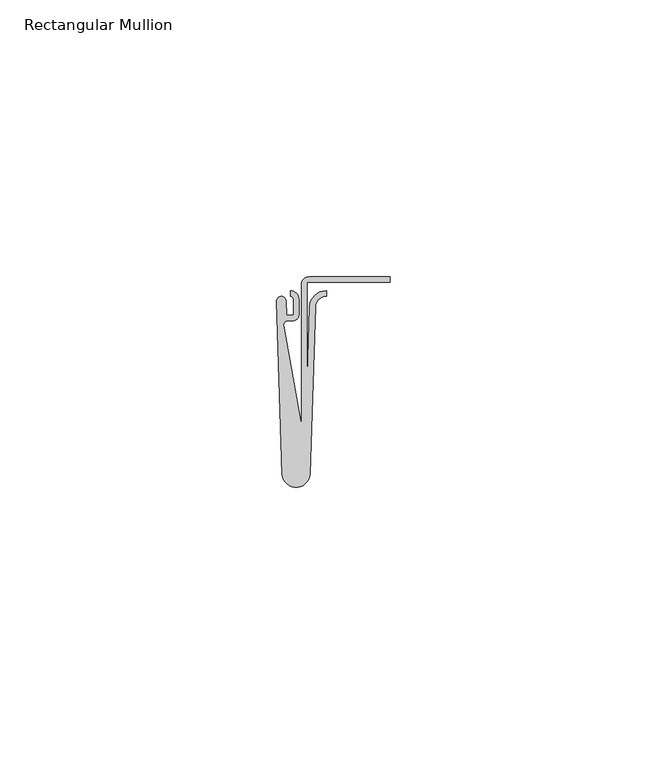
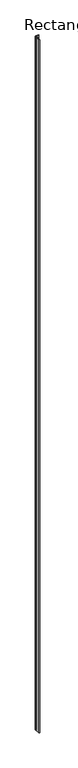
"""IFC4 building model written with IfcOpenShell, lengths in millimetres: member geometry, Rectangular Mullion : Stratco_Hiland_Tray Snaplock_38mm Rib_Intermediate."""

from ifc_helpers import new_model, si_unit, point, frame, frame_2d, origin, place, context, project, spatial, polyline, circle_curve, trimmed, segment, composite_curve, outline, extrude, source, transform, mapped, element, save


def rectangular_mullion_0e59b8e7(model_context):
    return source(origin(), model_context, "Body", "SweptSolid", [
        extrude(outline(composite_curve([segment(polyline([(-0.5028833, -6.8829629), (-0.5028833, -3.9971167)]), True, "CONTINUOUS"), segment(trimmed(circle_curve(frame_2d((-1.0, -3.9971167)), 0.4971167), [point((-0.5028833, -3.9971167))], [point((-1.0, -3.5))], True, "CARTESIAN"), True, "CONTINUOUS"), segment(polyline([(-1.0, -3.5), (-1.0, -2.4999999)]), True, "CONTINUOUS"), segment(trimmed(circle_curve(frame_2d((-1.0, -3.9973005)), 1.4973006), [point((-1.0, -2.4999999))], [point((0.4973006, -3.9973005))], False, "CARTESIAN"), True, "CONTINUOUS"), segment(polyline([(0.4973006, -3.9973005), (0.4973006, -6.9288725)]), True, "CONTINUOUS"), segment(trimmed(circle_curve(frame_2d((-0.5580688, -6.8533411)), 1.0580688), [point((0.4973006, -6.9288725))], [point((-0.5580688, -7.9114098))], False, "CARTESIAN"), True, "CONTINUOUS"), segment(polyline([(-0.5580688, -7.9114098), (-1.4747805, -7.9114098)]), True, "CONTINUOUS"), segment(trimmed(circle_curve(frame_2d((-1.4747805, -8.705404)), 0.7939942), [point((-1.4747805, -7.9114098))], [point((-2.1379942, -9.1419522))], True, "CARTESIAN"), True, "CONTINUOUS"), segment(polyline([(-2.1379942, -9.1419522), (0.9747471, -26.8708983), (0.9745768, -1.3275288)]), True, "CONTINUOUS"), segment(trimmed(circle_curve(frame_2d((2.3021365, -1.3275108)), 1.3275596), [point((0.9745768, -1.3275288))], [point((2.3021365, 4.88e-05))], False, "CARTESIAN"), True, "CONTINUOUS"), segment(polyline([(2.3021365, 4.88e-05), (17.0, 4.88e-05), (17.0, -0.9999512), (1.9745724, -0.9999512), (1.9745724, -20.8734664), (2.4651763, -5.3543763)]), True, "CONTINUOUS"), segment(trimmed(circle_curve(frame_2d((5.4616398, -5.5)), 3.0), [point((2.4651763, -5.3543763))], [point((5.4616398, -2.5))], False, "CARTESIAN"), True, "CONTINUOUS"), segment(polyline([(5.4616398, -2.5), (5.4616398, -3.5)]), True, "CONTINUOUS"), segment(trimmed(circle_curve(frame_2d((5.4616398, -5.5)), 2.0), [point((5.4616398, -3.5))], [point((3.464382, -5.3953045))], True, "CARTESIAN"), True, "CONTINUOUS"), segment(polyline([(3.464382, -5.3953045), (2.5086806, -35.626652)]), True, "CONTINUOUS"), segment(trimmed(circle_curve(frame_2d((0.0, -35.4875132)), 2.5125361), [point((2.5086806, -35.626652))], [point((-2.5086806, -35.626652))], False, "CARTESIAN"), True, "CONTINUOUS"), segment(polyline([(-2.5086806, -35.626652), (-3.5117987, -4.3994153)]), True, "CONTINUOUS"), segment(trimmed(circle_curve(frame_2d((-2.6603037, -4.3720626)), 0.8519342), [point((-3.5117987, -4.3994153))], [point((-1.8087597, -4.3462781))], False, "CARTESIAN"), True, "CONTINUOUS"), segment(polyline([(-1.8087597, -4.3462781), (-1.7319496, -6.8829629), (-0.5028833, -6.8829629)]), True, "CONTINUOUS")], self_intersect=False)), frame((0.0, 0.0, -4000.0), z_axis=(0.0, 0.0, 1.0), x_axis=(1.0, 0.0, 0.0)), (0.0, 0.0, 1.0), 4000.0),
    ])


if __name__ == "__main__":
    model = new_model("IFC4")
    model_context = context("Model", 3, world=origin())
    ifc_project = project(units=[si_unit("LENGTHUNIT", "METRE", prefix="MILLI")], contexts=[model_context])
    site = spatial("IfcSite", under=ifc_project)
    building = spatial("IfcBuilding", under=site)
    placement = place(None, origin())
    rectangular_mullion_shape = rectangular_mullion_0e59b8e7(model_context)
    element("IfcMember", 1, ObjectType="Rectangular Mullion : Stratco_Hiland_Tray Snaplock_38mm Rib_Intermediate", at=placement, inside=building, context=model_context, shape_type="MappedRepresentation", body=[
        mapped(rectangular_mullion_shape, transform((0.0, 0.0, 0.0), x_axis=(1.0, 0.0, 0.0), y_axis=(0.0, 1.0, 0.0), z_axis=(0.0, 0.0, 1.0))),
    ])
    save(model, "model.ifc")
